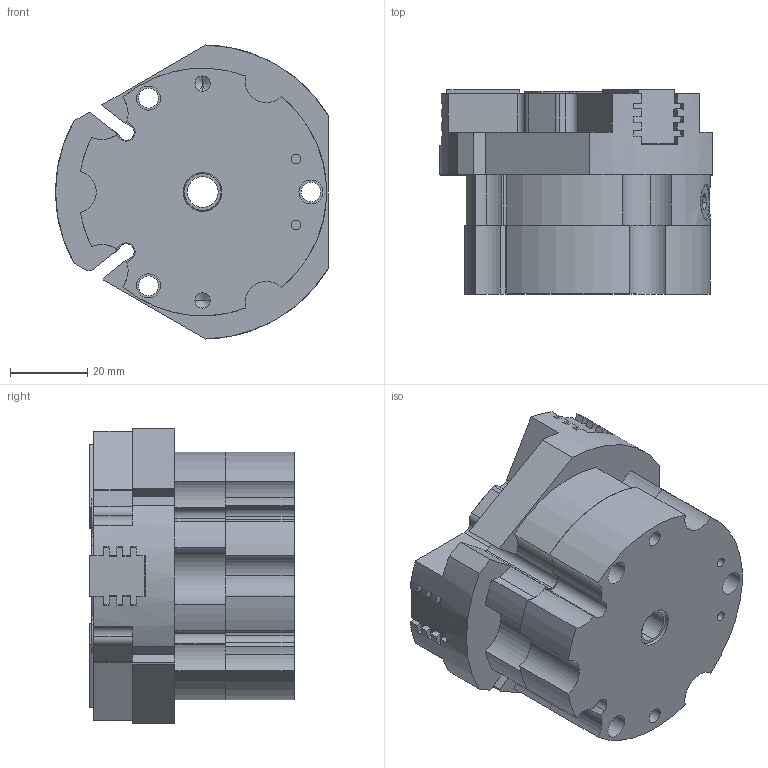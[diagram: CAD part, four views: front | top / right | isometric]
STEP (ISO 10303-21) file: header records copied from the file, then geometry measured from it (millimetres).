
FILE_DESCRIPTION (( 'STEP AP214' ), '1' );
FILE_NAME ('THB-64A-1-AS.STEP', '2021-01-18T03:06:50', ( '' ), ( '' ), 'SwSTEP 2.0', 'SolidWorks 2016', '' );
FILE_SCHEMA (( 'AUTOMOTIVE_DESIGN' ));
Length unit declared in the file: millimetre
Products named in the file (6): THB-64A-1-AS; THB-64A-1-AS-05; THB-64A-1-AS-04; THB-64A-1-AS-01; THB-64A-1-AS-02; THB-64A-1-AS-03
Assembly tree (7 placements, depth 2):
  THB-64A-1-AS
    THB-64A-1-AS-01
    THB-64A-1-AS-02  x3
    THB-64A-1-AS-03
    THB-64A-1-AS-04
    THB-64A-1-AS-05
Bounding box: 70.5 x 52.8 x 75.98 mm (x, y, z)
Volume: 150992.5 mm3; surface area: 49049.9 mm2
Topology: 7 solids, 7 shells, 543 faces, 1506 edges, 973 vertices
Faces by surface type: plane 274, cylinder 215, cone 54
Entity records: 14946 total; most frequent: CARTESIAN_POINT 2630, DIRECTION 2609, ORIENTED_EDGE 2428, EDGE_CURVE 1214, AXIS2_PLACEMENT_3D 958, VERTEX_POINT 801, VECTOR 693, LINE 693
